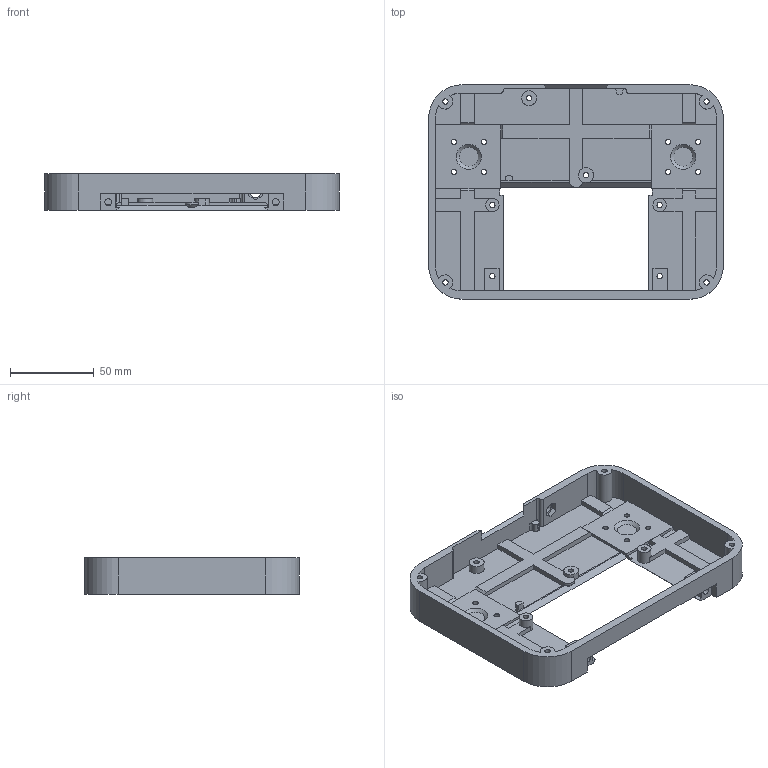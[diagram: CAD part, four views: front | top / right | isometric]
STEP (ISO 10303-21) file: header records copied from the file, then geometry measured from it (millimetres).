
FILE_DESCRIPTION(/* description */ (''),/* implementation_level */ '2;1');
FILE_NAME(/* name */ '6-01-1 RC lower body.step',/* time_stamp */ '2025-05-10T22:36:39+02:00',/* author */ (''),/* organization */ (''),/* preprocessor_version */ 'ST-DEVELOPER v20.1',/* originating_system */ 'Autodesk Translation Framework v14.4.0.0',/* authorisation */ '');
FILE_SCHEMA (('AUTOMOTIVE_DESIGN { 1 0 10303 214 3 1 1 }'));
Length unit declared in the file: millimetre
Products named in the file (1): 6-01-1 RC lower body
Bounding box: 176 x 128 x 22 mm (x, y, z)
Volume: 91195.9 mm3; surface area: 61279.9 mm2
Topology: 1 solids, 1 shells, 219 faces, 595 edges, 380 vertices
Faces by surface type: plane 128, cylinder 70, cone 21
Full cylindrical faces by diameter (mm): 3.2 x18, 4.1 x2, 6 x18, 6.5 x1, 8 x2, 9 x1
Entity records: 6996 total; most frequent: CARTESIAN_POINT 1229, ORIENTED_EDGE 1190, DIRECTION 1190, EDGE_CURVE 595, LINE 428, VECTOR 428, AXIS2_PLACEMENT_3D 381, VERTEX_POINT 380
